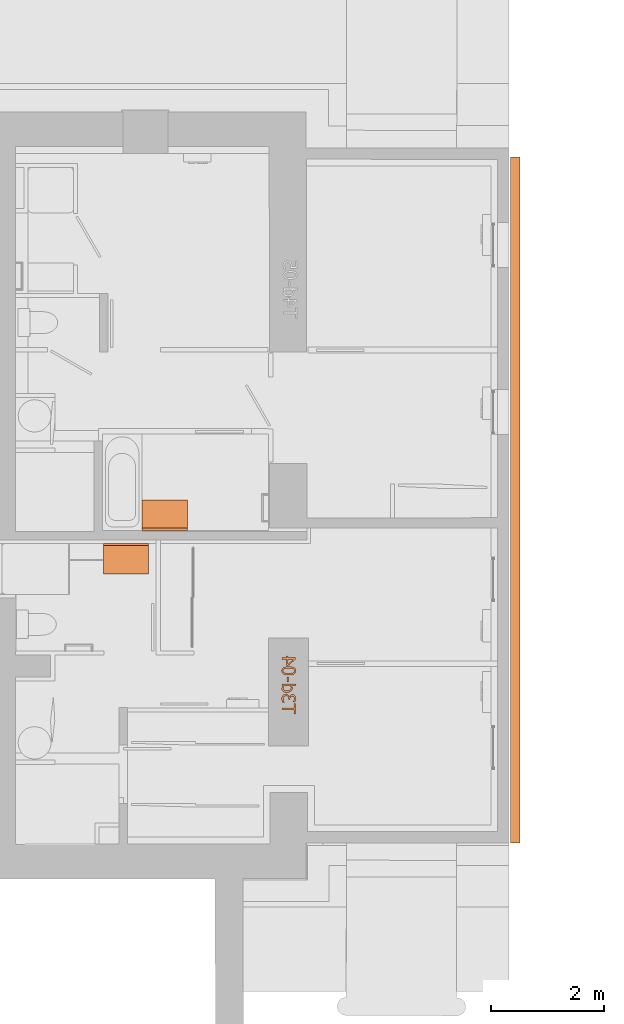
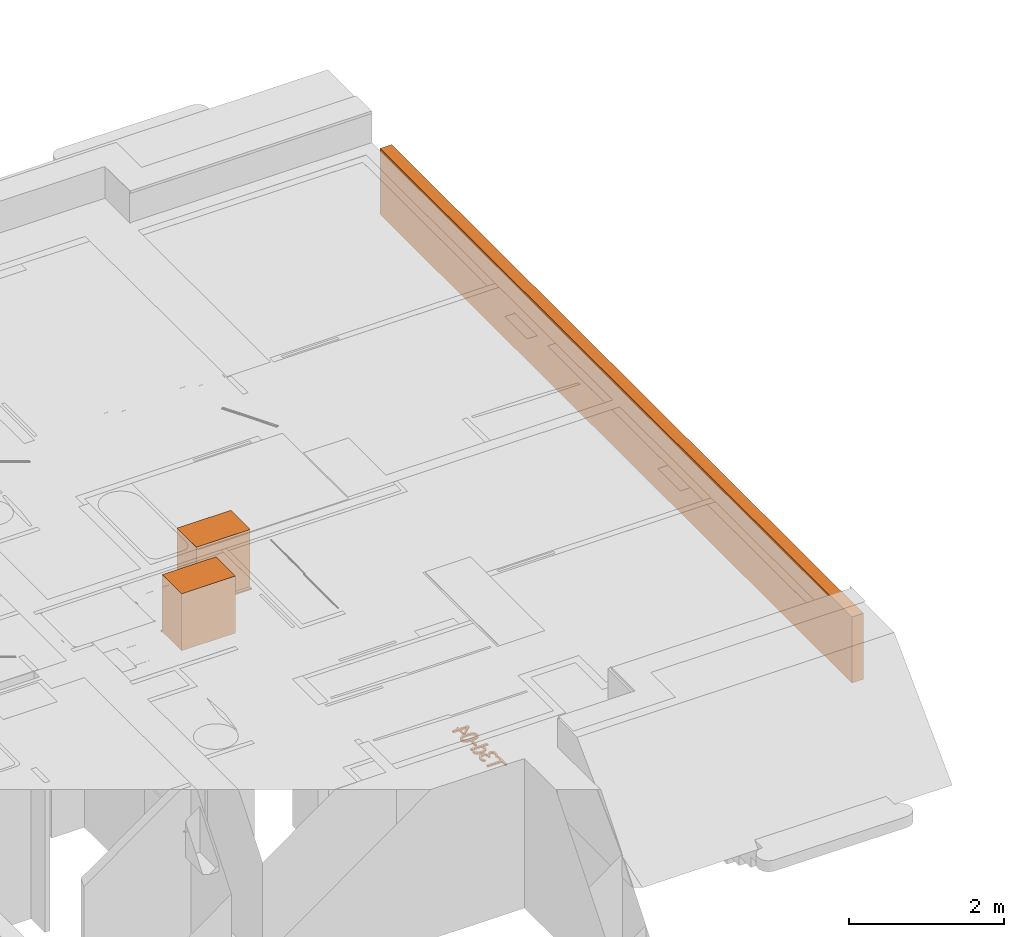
# Not in any storey, part 17 of 22: 4 proxies.
"""IFC4 model written with IfcOpenShell, lengths in metres."""

from ifc_helpers import new_model, si_unit, direction, origin_with_axes, place, context, subcontext, project, faceted_brep, element, save


model = new_model("IFC4")

# Units and contexts
model_context = context("Model", 3, precision=1e-05, world=origin_with_axes(), true_north=direction((1.0, 0.0)))
body_context = subcontext(model_context, "Body", "Model", "MODEL_VIEW")
ifc_project = project(units=[si_unit("LENGTHUNIT", "METRE"), si_unit("AREAUNIT", "SQUARE_METRE"), si_unit("VOLUMEUNIT", "CUBIC_METRE"), si_unit("MASSUNIT", "GRAM", prefix="KILO"), si_unit("TIMEUNIT", "SECOND"), si_unit("PLANEANGLEUNIT", "RADIAN"), si_unit("SOLIDANGLEUNIT", "STERADIAN")], contexts=[model_context])

# Proxies
placement = place(None, origin_with_axes())
element("IfcBuildingElementProxy", 1, at=placement, Name="Undefined", PredefinedType="NOTDEFINED", context=body_context, shape_type="Brep", body=[
    faceted_brep([(157.367111, 29.338512, 2.31), (157.367111, 17.149048, 2.31), (157.540909, 17.149048, 2.31), (157.540909, 29.338512, 2.31), (157.367111, 29.338512, 1.27), (157.367111, 17.149048, 1.27), (157.540909, 17.149048, 1.27), (157.540909, 29.338512, 1.27)], [[[0, 1, 2, 3]], [[1, 0, 4, 5]], [[2, 1, 5, 6]], [[3, 2, 6, 7]], [[0, 3, 7, 4]]]),
    faceted_brep([(157.367111, 17.149048, 1.27), (157.367111, 29.338512, 1.27), (157.540909, 29.338512, 1.27), (157.540909, 17.149048, 1.27)], [[[0, 1, 2, 3]]]),
])
element("IfcBuildingElementProxy", 2, at=placement, Name="Bloc Vasque", PredefinedType="NOTDEFINED", context=body_context, shape_type="AdvancedBrep", body=[
    faceted_brep([(150.820597, 22.744915, 1.41), (151.624866, 22.744915, 1.41), (151.624866, 22.727982, 1.41), (150.820597, 22.727982, 1.41), (151.624866, 22.702585, 1.41), (150.820597, 22.702585, 1.41), (151.624866, 22.727982, 1.39), (151.624866, 22.702585, 1.39), (150.820597, 22.702585, 1.39), (150.820597, 22.727982, 1.39), (151.624866, 22.744915, 2.31), (150.820597, 22.744915, 2.31), (150.820597, 23.244408, 2.31), (151.624866, 23.244408, 2.31), (150.820597, 23.244408, 1.41), (151.624866, 23.244408, 1.41), (151.472292, 22.992411, 1.41), (151.463771, 23.044185, 1.41), (151.43879, 23.092431, 1.41), (151.39905, 23.13386, 1.41), (151.347259, 23.16565, 1.41), (151.286948, 23.185635, 1.41), (151.27537, 23.186854, 1.41), (151.271658, 23.187903, 1.41), (151.222226, 23.192451, 1.41), (151.172795, 23.187903, 1.41), (151.169082, 23.186854, 1.41), (151.157504, 23.185635, 1.41), (151.097193, 23.165651, 1.41), (151.045403, 23.133861, 1.41), (151.005663, 23.092431, 1.41), (150.980681, 23.044185, 1.41), (150.97216, 22.992411, 1.41), (150.980681, 22.940637, 1.41), (151.005663, 22.892391, 1.41), (151.045403, 22.850961, 1.41), (151.097193, 22.819171, 1.41), (151.157504, 22.799187, 1.41), (151.222226, 22.792371, 1.41), (151.286948, 22.799187, 1.41), (151.347259, 22.819171, 1.41), (151.399049, 22.850961, 1.41), (151.43879, 22.892391, 1.41), (151.463771, 22.940636, 1.41), (151.007113, 23.086203, 1.41), (151.125024, 23.174411, 1.41), (151.080516, 23.152428, 1.41), (151.040768, 23.122692, 1.41), (151.319429, 23.17441, 1.41), (151.43734, 23.086203, 1.41), (151.403685, 23.122692, 1.41), (151.363936, 23.152428, 1.41), (150.97216, 22.992411, 1.536), (150.980681, 23.044185, 1.536), (151.007113, 23.086203, 1.536), (151.040768, 23.122692, 1.536), (151.080516, 23.152428, 1.536), (151.125024, 23.174411, 1.536), (151.169082, 23.186854, 1.536), (151.222226, 23.192451, 1.536), (151.27537, 23.186854, 1.536), (151.319429, 23.17441, 1.536), (151.363936, 23.152428, 1.536), (151.403685, 23.122692, 1.536), (151.43734, 23.086203, 1.536), (151.463771, 23.044185, 1.536), (151.472292, 22.992411, 1.536), (151.463771, 22.940636, 1.536), (151.43879, 22.892391, 1.536), (151.399049, 22.850961, 1.536), (151.347259, 22.819171, 1.536), (151.286948, 22.799187, 1.536), (151.222226, 22.792371, 1.536), (151.157504, 22.799187, 1.536), (151.097193, 22.819171, 1.536), (151.045403, 22.850961, 1.536), (151.005663, 22.892391, 1.536), (150.980681, 22.940637, 1.536)], [[[0, 1, 2, 3]], [[4, 2, 3, 5]], [[6, 7, 8, 9]], [[2, 4, 7, 6]], [[4, 5, 8, 7]], [[5, 3, 9, 8]], [[3, 2, 6, 9]], [[10, 11, 12, 13]], [[1, 0, 11, 10]], [[0, 14, 12, 11]], [[14, 15, 13, 12]], [[15, 1, 10, 13]], [[14, 15, 1, 0], [16, 17, 18, 19, 20, 21, 22, 23, 24, 25, 26, 27, 28, 29, 30, 31, 32, 33, 34, 35, 36, 37, 38, 39, 40, 41, 42, 43]], [[44, 31, 30, 29, 28, 27, 26, 45, 46, 47]], [[22, 24, 23]], [[24, 26, 25]], [[48, 22, 21, 20, 19, 18, 17, 49, 50, 51]], [[52, 53, 54, 55, 56, 57, 58, 59, 60, 61, 62, 63, 64, 65, 66, 67, 68, 69, 70, 71, 72, 73, 74, 75, 76, 77]], [[32, 31, 53, 52]], [[31, 44, 54, 53]], [[44, 47, 55, 54]], [[47, 46, 56, 55]], [[46, 45, 57, 56]], [[45, 26, 58, 57]], [[26, 24, 59, 58]], [[24, 22, 60, 59]], [[22, 48, 61, 60]], [[48, 51, 62, 61]], [[51, 50, 63, 62]], [[50, 49, 64, 63]], [[49, 17, 65, 64]], [[17, 16, 66, 65]], [[16, 43, 67, 66]], [[43, 42, 68, 67]], [[42, 41, 69, 68]], [[41, 40, 70, 69]], [[40, 39, 71, 70]], [[39, 38, 72, 71]], [[38, 37, 73, 72]], [[37, 36, 74, 73]], [[36, 35, 75, 74]], [[35, 34, 76, 75]], [[34, 33, 77, 76]], [[33, 32, 52, 77]]]),
])
element("IfcBuildingElementProxy", 3, at=placement, Name="Bloc Vasque", PredefinedType="NOTDEFINED", context=body_context, shape_type="AdvancedBrep", body=[
    faceted_brep([(150.935021, 22.431671, 1.41), (150.130752, 22.431671, 1.41), (150.130752, 22.448605, 1.41), (150.935021, 22.448605, 1.41), (150.130752, 22.474002, 1.41), (150.935021, 22.474002, 1.41), (150.130752, 22.448605, 1.39), (150.130752, 22.474002, 1.39), (150.935021, 22.474002, 1.39), (150.935021, 22.448605, 1.39), (150.130752, 22.431671, 2.31), (150.935021, 22.431671, 2.31), (150.935021, 21.932179, 2.31), (150.130752, 21.932179, 2.31), (150.935021, 21.932179, 1.41), (150.130752, 21.932179, 1.41), (150.283326, 22.184176, 1.41), (150.291846, 22.132402, 1.41), (150.316828, 22.084156, 1.41), (150.356568, 22.042726, 1.41), (150.408358, 22.010936, 1.41), (150.46867, 21.990952, 1.41), (150.480247, 21.989733, 1.41), (150.48396, 21.988684, 1.41), (150.533391, 21.984136, 1.41), (150.582823, 21.988684, 1.41), (150.586536, 21.989733, 1.41), (150.598113, 21.990952, 1.41), (150.658424, 22.010936, 1.41), (150.710215, 22.042726, 1.41), (150.749955, 22.084156, 1.41), (150.774937, 22.132402, 1.41), (150.783457, 22.184176, 1.41), (150.774937, 22.23595, 1.41), (150.749955, 22.284196, 1.41), (150.710215, 22.325626, 1.41), (150.658425, 22.357416, 1.41), (150.598113, 22.3774, 1.41), (150.533392, 22.384216, 1.41), (150.46867, 22.3774, 1.41), (150.408359, 22.357416, 1.41), (150.356568, 22.325626, 1.41), (150.316828, 22.284196, 1.41), (150.291846, 22.23595, 1.41), (150.748505, 22.090384, 1.41), (150.630594, 22.002176, 1.41), (150.675101, 22.024159, 1.41), (150.71485, 22.053894, 1.41), (150.436189, 22.002176, 1.41), (150.318278, 22.090384, 1.41), (150.351933, 22.053895, 1.41), (150.391681, 22.024159, 1.41), (150.783457, 22.184176, 1.536), (150.774937, 22.132402, 1.536), (150.748505, 22.090384, 1.536), (150.71485, 22.053894, 1.536), (150.675101, 22.024159, 1.536), (150.630594, 22.002176, 1.536), (150.586536, 21.989733, 1.536), (150.533391, 21.984136, 1.536), (150.480247, 21.989733, 1.536), (150.436189, 22.002176, 1.536), (150.391681, 22.024159, 1.536), (150.351933, 22.053895, 1.536), (150.318278, 22.090384, 1.536), (150.291846, 22.132402, 1.536), (150.283326, 22.184176, 1.536), (150.291846, 22.23595, 1.536), (150.316828, 22.284196, 1.536), (150.356568, 22.325626, 1.536), (150.408359, 22.357416, 1.536), (150.46867, 22.3774, 1.536), (150.533392, 22.384216, 1.536), (150.598113, 22.3774, 1.536), (150.658425, 22.357416, 1.536), (150.710215, 22.325626, 1.536), (150.749955, 22.284196, 1.536), (150.774937, 22.23595, 1.536)], [[[0, 1, 2, 3]], [[4, 2, 3, 5]], [[6, 7, 8, 9]], [[2, 4, 7, 6]], [[4, 5, 8, 7]], [[5, 3, 9, 8]], [[3, 2, 6, 9]], [[10, 11, 12, 13]], [[1, 0, 11, 10]], [[0, 14, 12, 11]], [[14, 15, 13, 12]], [[15, 1, 10, 13]], [[14, 15, 1, 0], [16, 17, 18, 19, 20, 21, 22, 23, 24, 25, 26, 27, 28, 29, 30, 31, 32, 33, 34, 35, 36, 37, 38, 39, 40, 41, 42, 43]], [[44, 31, 30, 29, 28, 27, 26, 45, 46, 47]], [[22, 24, 23]], [[24, 26, 25]], [[48, 22, 21, 20, 19, 18, 17, 49, 50, 51]], [[52, 53, 54, 55, 56, 57, 58, 59, 60, 61, 62, 63, 64, 65, 66, 67, 68, 69, 70, 71, 72, 73, 74, 75, 76, 77]], [[32, 31, 53, 52]], [[31, 44, 54, 53]], [[44, 47, 55, 54]], [[47, 46, 56, 55]], [[46, 45, 57, 56]], [[45, 26, 58, 57]], [[26, 24, 59, 58]], [[24, 22, 60, 59]], [[22, 48, 61, 60]], [[48, 51, 62, 61]], [[51, 50, 63, 62]], [[50, 49, 64, 63]], [[49, 17, 65, 64]], [[17, 16, 66, 65]], [[16, 43, 67, 66]], [[43, 42, 68, 67]], [[42, 41, 69, 68]], [[41, 40, 70, 69]], [[40, 39, 71, 70]], [[39, 38, 72, 71]], [[38, 37, 73, 72]], [[37, 36, 74, 73]], [[36, 35, 75, 74]], [[35, 34, 76, 75]], [[34, 33, 77, 76]], [[33, 32, 52, 77]]]),
])
element("IfcBuildingElementProxy", 4, at=placement, Name="Undefined", PredefinedType="NOTDEFINED", context=body_context, shape_type="AdvancedBrep", body=[
    faceted_brep([(153.305248, 19.51723, -0.05), (153.518213, 19.51723, -0.05), (153.518213, 19.436132, -0.05), (153.546759, 19.436132, -0.05), (153.546759, 19.630443, -0.05), (153.518213, 19.630443, -0.05), (153.518213, 19.549345, -0.05), (153.305248, 19.549345, -0.05), (153.523727, 19.713164, -0.05), (153.521619, 19.695647, -0.05), (153.516104, 19.678454, -0.05), (153.509292, 19.66491, -0.05), (153.502642, 19.654611, -0.05), (153.502642, 19.652664, -0.05), (153.536865, 19.652664, -0.05), (153.547165, 19.681292, -0.05), (153.550632, 19.698951, -0.05), (153.551787, 19.715759, -0.05), (153.548462, 19.744387, -0.05), (153.544225, 19.756045, -0.05), (153.538163, 19.766526, -0.05), (153.529566, 19.775914, -0.05), (153.519348, 19.782665, -0.05), (153.507386, 19.78674, -0.05), (153.493559, 19.788099, -0.05), (153.474825, 19.784814, -0.05), (153.458524, 19.774961, -0.05), (153.446197, 19.760525, -0.05), (153.439385, 19.743495, -0.05), (153.437114, 19.743495, -0.05), (153.432086, 19.759795, -0.05), (153.421543, 19.775934, -0.05), (153.413576, 19.782706, -0.05), (153.403621, 19.788099, -0.05), (153.391476, 19.791626, -0.05), (153.376939, 19.792802, -0.05), (153.361227, 19.791403, -0.05), (153.346852, 19.787207, -0.05), (153.333937, 19.780455, -0.05), (153.322603, 19.771392, -0.05), (153.312912, 19.759755, -0.05), (153.305897, 19.745928, -0.05), (153.30164, 19.729992, -0.05), (153.30022, 19.712028, -0.05), (153.301315, 19.693943, -0.05), (153.3046, 19.676021, -0.05), (153.315142, 19.646014, -0.05), (153.349366, 19.646014, -0.05), (153.349366, 19.648285, -0.05), (153.335093, 19.675696, -0.05), (153.329983, 19.692889, -0.05), (153.32828, 19.710082, -0.05), (153.331443, 19.729951, -0.05), (153.335599, 19.739095, -0.05), (153.341743, 19.746576, -0.05), (153.357476, 19.75647, -0.05), (153.367208, 19.759025, -0.05), (153.37921, 19.759876, -0.05), (153.391172, 19.758924, -0.05), (153.400782, 19.756065, -0.05), (153.408324, 19.751503, -0.05), (153.414082, 19.745441, -0.05), (153.420814, 19.729302, -0.05), (153.422679, 19.709109, -0.05), (153.422679, 19.695322, -0.05), (153.449603, 19.695322, -0.05), (153.449603, 19.706027, -0.05), (153.452199, 19.725876, -0.05), (153.459984, 19.741629, -0.05), (153.465762, 19.747625, -0.05), (153.472716, 19.751909, -0.05), (153.480847, 19.754478, -0.05), (153.490153, 19.755335, -0.05), (153.498607, 19.754443, -0.05), (153.505805, 19.751767, -0.05), (153.516266, 19.742684, -0.05), (153.522105, 19.729059, -0.05), (153.305248, 19.973165, -0.05), (153.305248, 19.942672, -0.05), (153.323739, 19.942672, -0.05), (153.313845, 19.930345, -0.05), (153.306708, 19.91818, -0.05), (153.301923, 19.904718, -0.05), (153.30022, 19.888498, -0.05), (153.301761, 19.874286, -0.05), (153.306384, 19.861168, -0.05), (153.313966, 19.849551, -0.05), (153.324388, 19.839839, -0.05), (153.337789, 19.831932, -0.05), (153.353989, 19.826053, -0.05), (153.372905, 19.822403, -0.05), (153.394457, 19.821187, -0.05), (153.416698, 19.822728, -0.05), (153.435736, 19.82735, -0.05), (153.452057, 19.83469, -0.05), (153.466148, 19.844381, -0.05), (153.476711, 19.855309, -0.05), (153.484719, 19.868305, -0.05), (153.489767, 19.88268, -0.05), (153.49145, 19.897744, -0.05), (153.48845, 19.921424, -0.05), (153.479123, 19.942672, -0.05), (153.557626, 19.942672, -0.05), (153.557626, 19.973165, -0.05), (153.349366, 19.942672, -0.05), (153.453821, 19.942672, -0.05), (153.461444, 19.922316, -0.05), (153.463552, 19.902772, -0.05), (153.462452, 19.891651, -0.05), (153.459153, 19.881808, -0.05), (153.453653, 19.873242, -0.05), (153.445954, 19.865953, -0.05), (153.436177, 19.860134, -0.05), (153.424443, 19.855978, -0.05), (153.395105, 19.852653, -0.05), (153.366903, 19.855208, -0.05), (153.346203, 19.862871, -0.05), (153.338788, 19.868751, -0.05), (153.333491, 19.876171, -0.05), (153.330313, 19.885133, -0.05), (153.329254, 19.895635, -0.05), (153.330612, 19.907678, -0.05), (153.334687, 19.919802, -0.05), (153.341074, 19.931602, -0.05), (153.396241, 20.1013, -0.05), (153.396241, 20.009821, -0.05), (153.425598, 20.009821, -0.05), (153.425598, 20.1013, -0.05), (153.426085, 20.283772, -0.05), (153.395729, 20.282591, -0.05), (153.369701, 20.279048, -0.05), (153.348002, 20.273143, -0.05), (153.330632, 20.264876, -0.05), (153.317327, 20.254145, -0.05), (153.307823, 20.24085, -0.05), (153.302121, 20.224991, -0.05), (153.30022, 20.206566, -0.05), (153.302157, 20.187944, -0.05), (153.307965, 20.171978, -0.05), (153.317646, 20.158667, -0.05), (153.3312, 20.148013, -0.05), (153.348727, 20.139853, -0.05), (153.37033, 20.134024, -0.05), (153.396008, 20.130526, -0.05), (153.425761, 20.12936, -0.05), (153.456248, 20.130541, -0.05), (153.482347, 20.134084, -0.05), (153.504056, 20.139989, -0.05), (153.521375, 20.148256, -0.05), (153.53461, 20.158987, -0.05), (153.544063, 20.172282, -0.05), (153.549735, 20.188142, -0.05), (153.551625, 20.206566, -0.05), (153.549669, 20.225188, -0.05), (153.543799, 20.241155, -0.05), (153.534017, 20.254465, -0.05), (153.520321, 20.265119, -0.05), (153.502692, 20.27328, -0.05), (153.48111, 20.279109, -0.05), (153.455574, 20.282606, -0.05), (153.352448, 20.242249, -0.05), (153.366032, 20.246264, -0.05), (153.382778, 20.248899, -0.05), (153.426085, 20.250846, -0.05), (153.469229, 20.248899, -0.05), (153.486017, 20.246223, -0.05), (153.499722, 20.242087, -0.05), (153.510569, 20.236309, -0.05), (153.518456, 20.228706, -0.05), (153.523261, 20.218913, -0.05), (153.524863, 20.206566, -0.05), (153.523261, 20.1943, -0.05), (153.518456, 20.184426, -0.05), (153.510488, 20.176661, -0.05), (153.499398, 20.170721, -0.05), (153.485449, 20.166625, -0.05), (153.468256, 20.164071, -0.05), (153.425761, 20.162286, -0.05), (153.383427, 20.163827, -0.05), (153.367289, 20.16628, -0.05), (153.352934, 20.170558, -0.05), (153.341885, 20.176256, -0.05), (153.333714, 20.18394, -0.05), (153.328666, 20.193935, -0.05), (153.326983, 20.206566, -0.05), (153.328584, 20.218832, -0.05), (153.33339, 20.228706, -0.05), (153.341357, 20.236431, -0.05), (153.388293, 20.470298, -0.05), (153.388293, 20.441589, -0.05), (153.305248, 20.441589, -0.05), (153.305248, 20.410447, -0.05), (153.388293, 20.410447, -0.05), (153.388293, 20.303722, -0.05), (153.422354, 20.303722, -0.05), (153.546759, 20.411745, -0.05), (153.546759, 20.441589, -0.05), (153.414245, 20.441589, -0.05), (153.414245, 20.470298, -0.05), (153.414245, 20.410447, -0.05), (153.508643, 20.410447, -0.05), (153.414245, 20.329025, -0.05), (153.518213, 19.51723, -0.075), (153.305248, 19.51723, -0.075), (153.305248, 19.549345, -0.075), (153.518213, 19.549345, -0.075), (153.518213, 19.630443, -0.075), (153.546759, 19.630443, -0.075), (153.546759, 19.436132, -0.075), (153.518213, 19.436132, -0.075), (153.521619, 19.695647, -0.075), (153.523727, 19.713164, -0.075), (153.522105, 19.729059, -0.075), (153.516266, 19.742684, -0.075), (153.505805, 19.751767, -0.075), (153.498607, 19.754443, -0.075), (153.490153, 19.755335, -0.075), (153.480847, 19.754478, -0.075), (153.472716, 19.751909, -0.075), (153.465762, 19.747625, -0.075), (153.459984, 19.741629, -0.075), (153.452199, 19.725876, -0.075), (153.449603, 19.706027, -0.075), (153.449603, 19.695322, -0.075), (153.422679, 19.695322, -0.075), (153.422679, 19.709109, -0.075), (153.420814, 19.729302, -0.075), (153.414082, 19.745441, -0.075), (153.408324, 19.751503, -0.075), (153.400782, 19.756065, -0.075), (153.391172, 19.758924, -0.075), (153.37921, 19.759876, -0.075), (153.367208, 19.759025, -0.075), (153.357476, 19.75647, -0.075), (153.341743, 19.746576, -0.075), (153.335599, 19.739095, -0.075), (153.331443, 19.729951, -0.075), (153.32828, 19.710082, -0.075), (153.329983, 19.692889, -0.075), (153.335093, 19.675696, -0.075), (153.349366, 19.648285, -0.075), (153.349366, 19.646014, -0.075), (153.315142, 19.646014, -0.075), (153.3046, 19.676021, -0.075), (153.301315, 19.693943, -0.075), (153.30022, 19.712028, -0.075), (153.30164, 19.729992, -0.075), (153.305897, 19.745928, -0.075), (153.312912, 19.759755, -0.075), (153.322603, 19.771392, -0.075), (153.333937, 19.780455, -0.075), (153.346852, 19.787207, -0.075), (153.361227, 19.791403, -0.075), (153.376939, 19.792802, -0.075), (153.391476, 19.791626, -0.075), (153.403621, 19.788099, -0.075), (153.413576, 19.782706, -0.075), (153.421543, 19.775934, -0.075), (153.432086, 19.759795, -0.075), (153.437114, 19.743495, -0.075), (153.439385, 19.743495, -0.075), (153.446197, 19.760525, -0.075), (153.458524, 19.774961, -0.075), (153.474825, 19.784814, -0.075), (153.493559, 19.788099, -0.075), (153.507386, 19.78674, -0.075), (153.519348, 19.782665, -0.075), (153.529566, 19.775914, -0.075), (153.538163, 19.766526, -0.075), (153.544225, 19.756045, -0.075), (153.548462, 19.744387, -0.075), (153.551787, 19.715759, -0.075), (153.550632, 19.698951, -0.075), (153.547165, 19.681292, -0.075), (153.536865, 19.652664, -0.075), (153.502642, 19.652664, -0.075), (153.502642, 19.654611, -0.075), (153.509292, 19.66491, -0.075), (153.516104, 19.678454, -0.075), (153.305248, 19.942672, -0.075), (153.305248, 19.973165, -0.075), (153.557626, 19.973165, -0.075), (153.557626, 19.942672, -0.075), (153.479123, 19.942672, -0.075), (153.48845, 19.921424, -0.075), (153.49145, 19.897744, -0.075), (153.489767, 19.88268, -0.075), (153.484719, 19.868305, -0.075), (153.476711, 19.855309, -0.075), (153.466148, 19.844381, -0.075), (153.452057, 19.83469, -0.075), (153.435736, 19.82735, -0.075), (153.416698, 19.822728, -0.075), (153.394457, 19.821187, -0.075), (153.372905, 19.822403, -0.075), (153.353989, 19.826053, -0.075), (153.337789, 19.831932, -0.075), (153.324388, 19.839839, -0.075), (153.313966, 19.849551, -0.075), (153.306384, 19.861168, -0.075), (153.301761, 19.874286, -0.075), (153.30022, 19.888498, -0.075), (153.301923, 19.904718, -0.075), (153.306708, 19.91818, -0.075), (153.313845, 19.930345, -0.075), (153.323739, 19.942672, -0.075), (153.453821, 19.942672, -0.075), (153.349366, 19.942672, -0.075), (153.341074, 19.931602, -0.075), (153.334687, 19.919802, -0.075), (153.330612, 19.907678, -0.075), (153.329254, 19.895635, -0.075), (153.330313, 19.885133, -0.075), (153.333491, 19.876171, -0.075), (153.338788, 19.868751, -0.075), (153.346203, 19.862871, -0.075), (153.366903, 19.855208, -0.075), (153.395105, 19.852653, -0.075), (153.424443, 19.855978, -0.075), (153.436177, 19.860134, -0.075), (153.445954, 19.865953, -0.075), (153.453653, 19.873242, -0.075), (153.459153, 19.881808, -0.075), (153.462452, 19.891651, -0.075), (153.463552, 19.902772, -0.075), (153.461444, 19.922316, -0.075), (153.396241, 20.009821, -0.075), (153.396241, 20.1013, -0.075), (153.425598, 20.1013, -0.075), (153.425598, 20.009821, -0.075), (153.395729, 20.282591, -0.075), (153.426085, 20.283772, -0.075), (153.455574, 20.282606, -0.075), (153.48111, 20.279109, -0.075), (153.502692, 20.27328, -0.075), (153.520321, 20.265119, -0.075), (153.534017, 20.254465, -0.075), (153.543799, 20.241155, -0.075), (153.549669, 20.225188, -0.075), (153.551625, 20.206566, -0.075), (153.549735, 20.188142, -0.075), (153.544063, 20.172282, -0.075), (153.53461, 20.158987, -0.075), (153.521375, 20.148256, -0.075), (153.504056, 20.139989, -0.075), (153.482347, 20.134084, -0.075), (153.456248, 20.130541, -0.075), (153.425761, 20.12936, -0.075), (153.396008, 20.130526, -0.075), (153.37033, 20.134024, -0.075), (153.348727, 20.139853, -0.075), (153.3312, 20.148013, -0.075), (153.317646, 20.158667, -0.075), (153.307965, 20.171978, -0.075), (153.302157, 20.187944, -0.075), (153.30022, 20.206566, -0.075), (153.302121, 20.224991, -0.075), (153.307823, 20.24085, -0.075), (153.317327, 20.254145, -0.075), (153.330632, 20.264876, -0.075), (153.348002, 20.273143, -0.075), (153.369701, 20.279048, -0.075), (153.366032, 20.246264, -0.075), (153.352448, 20.242249, -0.075), (153.341357, 20.236431, -0.075), (153.33339, 20.228706, -0.075), (153.328584, 20.218832, -0.075), (153.326983, 20.206566, -0.075), (153.328666, 20.193935, -0.075), (153.333714, 20.18394, -0.075), (153.341885, 20.176256, -0.075), (153.352934, 20.170558, -0.075), (153.367289, 20.16628, -0.075), (153.383427, 20.163827, -0.075), (153.425761, 20.162286, -0.075), (153.468256, 20.164071, -0.075), (153.485449, 20.166625, -0.075), (153.499398, 20.170721, -0.075), (153.510488, 20.176661, -0.075), (153.518456, 20.184426, -0.075), (153.523261, 20.1943, -0.075), (153.524863, 20.206566, -0.075), (153.523261, 20.218913, -0.075), (153.518456, 20.228706, -0.075), (153.510569, 20.236309, -0.075), (153.499722, 20.242087, -0.075), (153.486017, 20.246223, -0.075), (153.469229, 20.248899, -0.075), (153.426085, 20.250846, -0.075), (153.382778, 20.248899, -0.075), (153.388293, 20.441589, -0.075), (153.388293, 20.470298, -0.075), (153.414245, 20.470298, -0.075), (153.414245, 20.441589, -0.075), (153.546759, 20.441589, -0.075), (153.546759, 20.411745, -0.075), (153.422354, 20.303722, -0.075), (153.388293, 20.303722, -0.075), (153.388293, 20.410447, -0.075), (153.305248, 20.410447, -0.075), (153.305248, 20.441589, -0.075), (153.508643, 20.410447, -0.075), (153.414245, 20.410447, -0.075), (153.414245, 20.329025, -0.075)], [[[0, 1, 2, 3, 4, 5, 6, 7]], [[8, 9, 10, 11, 12, 13, 14, 15, 16, 17, 18, 19, 20, 21, 22, 23, 24, 25, 26, 27, 28, 29, 30, 31, 32, 33, 34, 35, 36, 37, 38, 39, 40, 41, 42, 43, 44, 45, 46, 47, 48, 49, 50, 51, 52, 53, 54, 55, 56, 57, 58, 59, 60, 61, 62, 63, 64, 65, 66, 67, 68, 69, 70, 71, 72, 73, 74, 75, 76]], [[77, 78, 79, 80, 81, 82, 83, 84, 85, 86, 87, 88, 89, 90, 91, 92, 93, 94, 95, 96, 97, 98, 99, 100, 101, 102, 103], [104, 105, 106, 107, 108, 109, 110, 111, 112, 113, 114, 115, 116, 117, 118, 119, 120, 121, 122, 123]], [[124, 125, 126, 127]], [[128, 129, 130, 131, 132, 133, 134, 135, 136, 137, 138, 139, 140, 141, 142, 143, 144, 145, 146, 147, 148, 149, 150, 151, 152, 153, 154, 155, 156, 157, 158, 159], [160, 161, 162, 163, 164, 165, 166, 167, 168, 169, 170, 171, 172, 173, 174, 175, 176, 177, 178, 179, 180, 181, 182, 183, 184, 185, 186, 187]], [[188, 189, 190, 191, 192, 193, 194, 195, 196, 197, 198], [199, 200, 201]], [[202, 203, 204, 205, 206, 207, 208, 209]], [[1, 0, 203, 202]], [[2, 1, 202, 209]], [[3, 2, 209, 208]], [[4, 3, 208, 207]], [[5, 4, 207, 206]], [[6, 5, 206, 205]], [[7, 6, 205, 204]], [[0, 7, 204, 203]], [[210, 211, 212, 213, 214, 215, 216, 217, 218, 219, 220, 221, 222, 223, 224, 225, 226, 227, 228, 229, 230, 231, 232, 233, 234, 235, 236, 237, 238, 239, 240, 241, 242, 243, 244, 245, 246, 247, 248, 249, 250, 251, 252, 253, 254, 255, 256, 257, 258, 259, 260, 261, 262, 263, 264, 265, 266, 267, 268, 269, 270, 271, 272, 273, 274, 275, 276, 277, 278]], [[9, 8, 211, 210]], [[10, 9, 210, 278]], [[11, 10, 278, 277]], [[12, 11, 277, 276]], [[13, 12, 276, 275]], [[14, 13, 275, 274]], [[15, 14, 274, 273]], [[16, 15, 273, 272]], [[17, 16, 272, 271]], [[18, 17, 271, 270]], [[19, 18, 270, 269]], [[20, 19, 269, 268]], [[21, 20, 268, 267]], [[22, 21, 267, 266]], [[23, 22, 266, 265]], [[24, 23, 265, 264]], [[25, 24, 264, 263]], [[26, 25, 263, 262]], [[27, 26, 262, 261]], [[28, 27, 261, 260]], [[29, 28, 260, 259]], [[30, 29, 259, 258]], [[31, 30, 258, 257]], [[32, 31, 257, 256]], [[33, 32, 256, 255]], [[34, 33, 255, 254]], [[35, 34, 254, 253]], [[36, 35, 253, 252]], [[37, 36, 252, 251]], [[38, 37, 251, 250]], [[39, 38, 250, 249]], [[40, 39, 249, 248]], [[41, 40, 248, 247]], [[42, 41, 247, 246]], [[43, 42, 246, 245]], [[44, 43, 245, 244]], [[45, 44, 244, 243]], [[46, 45, 243, 242]], [[47, 46, 242, 241]], [[48, 47, 241, 240]], [[49, 48, 240, 239]], [[50, 49, 239, 238]], [[51, 50, 238, 237]], [[52, 51, 237, 236]], [[53, 52, 236, 235]], [[54, 53, 235, 234]], [[55, 54, 234, 233]], [[56, 55, 233, 232]], [[57, 56, 232, 231]], [[58, 57, 231, 230]], [[59, 58, 230, 229]], [[60, 59, 229, 228]], [[61, 60, 228, 227]], [[62, 61, 227, 226]], [[63, 62, 226, 225]], [[64, 63, 225, 224]], [[65, 64, 224, 223]], [[66, 65, 223, 222]], [[67, 66, 222, 221]], [[68, 67, 221, 220]], [[69, 68, 220, 219]], [[70, 69, 219, 218]], [[71, 70, 218, 217]], [[72, 71, 217, 216]], [[73, 72, 216, 215]], [[74, 73, 215, 214]], [[75, 74, 214, 213]], [[76, 75, 213, 212]], [[8, 76, 212, 211]], [[279, 280, 281, 282, 283, 284, 285, 286, 287, 288, 289, 290, 291, 292, 293, 294, 295, 296, 297, 298, 299, 300, 301, 302, 303, 304, 305], [306, 307, 308, 309, 310, 311, 312, 313, 314, 315, 316, 317, 318, 319, 320, 321, 322, 323, 324, 325]], [[78, 77, 280, 279]], [[79, 78, 279, 305]], [[80, 79, 305, 304]], [[81, 80, 304, 303]], [[82, 81, 303, 302]], [[83, 82, 302, 301]], [[84, 83, 301, 300]], [[85, 84, 300, 299]], [[86, 85, 299, 298]], [[87, 86, 298, 297]], [[88, 87, 297, 296]], [[89, 88, 296, 295]], [[90, 89, 295, 294]], [[91, 90, 294, 293]], [[92, 91, 293, 292]], [[93, 92, 292, 291]], [[94, 93, 291, 290]], [[95, 94, 290, 289]], [[96, 95, 289, 288]], [[97, 96, 288, 287]], [[98, 97, 287, 286]], [[99, 98, 286, 285]], [[100, 99, 285, 284]], [[101, 100, 284, 283]], [[102, 101, 283, 282]], [[103, 102, 282, 281]], [[77, 103, 281, 280]], [[105, 104, 307, 306]], [[106, 105, 306, 325]], [[107, 106, 325, 324]], [[108, 107, 324, 323]], [[109, 108, 323, 322]], [[110, 109, 322, 321]], [[111, 110, 321, 320]], [[112, 111, 320, 319]], [[113, 112, 319, 318]], [[114, 113, 318, 317]], [[115, 114, 317, 316]], [[116, 115, 316, 315]], [[117, 116, 315, 314]], [[118, 117, 314, 313]], [[119, 118, 313, 312]], [[120, 119, 312, 311]], [[121, 120, 311, 310]], [[122, 121, 310, 309]], [[123, 122, 309, 308]], [[104, 123, 308, 307]], [[326, 327, 328, 329]], [[125, 124, 327, 326]], [[126, 125, 326, 329]], [[127, 126, 329, 328]], [[124, 127, 328, 327]], [[330, 331, 332, 333, 334, 335, 336, 337, 338, 339, 340, 341, 342, 343, 344, 345, 346, 347, 348, 349, 350, 351, 352, 353, 354, 355, 356, 357, 358, 359, 360, 361], [362, 363, 364, 365, 366, 367, 368, 369, 370, 371, 372, 373, 374, 375, 376, 377, 378, 379, 380, 381, 382, 383, 384, 385, 386, 387, 388, 389]], [[129, 128, 331, 330]], [[130, 129, 330, 361]], [[131, 130, 361, 360]], [[132, 131, 360, 359]], [[133, 132, 359, 358]], [[134, 133, 358, 357]], [[135, 134, 357, 356]], [[136, 135, 356, 355]], [[137, 136, 355, 354]], [[138, 137, 354, 353]], [[139, 138, 353, 352]], [[140, 139, 352, 351]], [[141, 140, 351, 350]], [[142, 141, 350, 349]], [[143, 142, 349, 348]], [[144, 143, 348, 347]], [[145, 144, 347, 346]], [[146, 145, 346, 345]], [[147, 146, 345, 344]], [[148, 147, 344, 343]], [[149, 148, 343, 342]], [[150, 149, 342, 341]], [[151, 150, 341, 340]], [[152, 151, 340, 339]], [[153, 152, 339, 338]], [[154, 153, 338, 337]], [[155, 154, 337, 336]], [[156, 155, 336, 335]], [[157, 156, 335, 334]], [[158, 157, 334, 333]], [[159, 158, 333, 332]], [[128, 159, 332, 331]], [[161, 160, 363, 362]], [[162, 161, 362, 389]], [[163, 162, 389, 388]], [[164, 163, 388, 387]], [[165, 164, 387, 386]], [[166, 165, 386, 385]], [[167, 166, 385, 384]], [[168, 167, 384, 383]], [[169, 168, 383, 382]], [[170, 169, 382, 381]], [[171, 170, 381, 380]], [[172, 171, 380, 379]], [[173, 172, 379, 378]], [[174, 173, 378, 377]], [[175, 174, 377, 376]], [[176, 175, 376, 375]], [[177, 176, 375, 374]], [[178, 177, 374, 373]], [[179, 178, 373, 372]], [[180, 179, 372, 371]], [[181, 180, 371, 370]], [[182, 181, 370, 369]], [[183, 182, 369, 368]], [[184, 183, 368, 367]], [[185, 184, 367, 366]], [[186, 185, 366, 365]], [[187, 186, 365, 364]], [[160, 187, 364, 363]], [[390, 391, 392, 393, 394, 395, 396, 397, 398, 399, 400], [401, 402, 403]], [[189, 188, 391, 390]], [[190, 189, 390, 400]], [[191, 190, 400, 399]], [[192, 191, 399, 398]], [[193, 192, 398, 397]], [[194, 193, 397, 396]], [[195, 194, 396, 395]], [[196, 195, 395, 394]], [[197, 196, 394, 393]], [[198, 197, 393, 392]], [[188, 198, 392, 391]], [[200, 199, 402, 401]], [[201, 200, 401, 403]], [[199, 201, 403, 402]]]),
])

save(model, "model.ifc")
